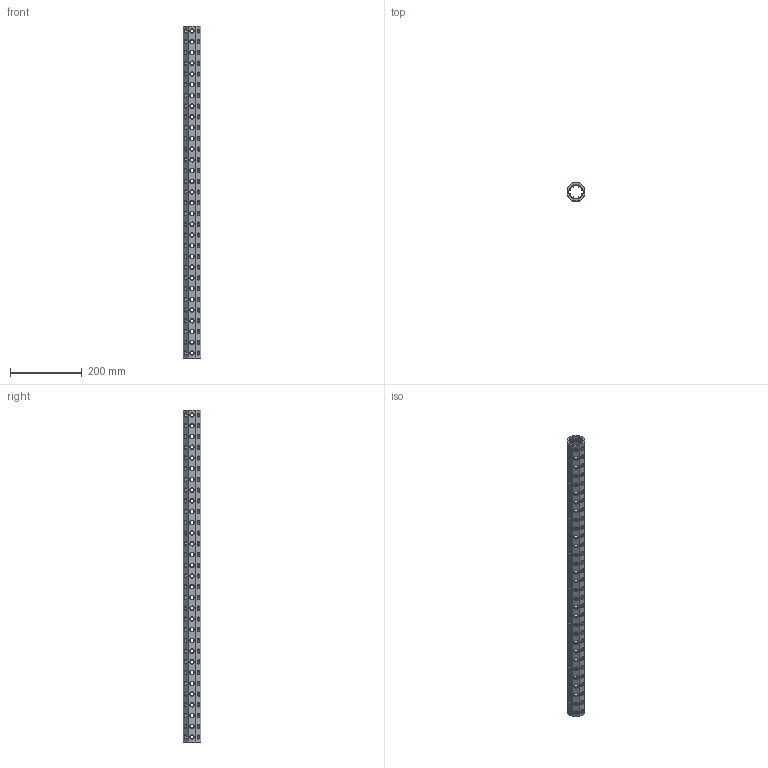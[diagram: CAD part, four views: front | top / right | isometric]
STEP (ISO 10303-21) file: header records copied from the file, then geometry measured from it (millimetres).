
FILE_DESCRIPTION(('CATIA V5 STEP Exchange'),'2;1');
FILE_NAME('U:\Room\唐宝山\EGT002\46-01-010260-01-EGT002-928.stp','2021-08-24T01:11:10+00:00',('none'),('none'),'CATIA Version 5 Release 21 GA (IN-10)','CATIA V5 STEP AP203','none');
FILE_SCHEMA(('CONFIG_CONTROL_DESIGN'));
Products named in the file (1): 46-01-010260-01-EGT002-928
Bounding box: 50 x 50 x 928 mm (x, y, z)
Volume: 661053.9 mm3; surface area: 319668.3 mm2
Topology: 1 solids, 1 shells, 1324 faces, 3656 edges, 2272 vertices
Faces by surface type: cone 744, cylinder 554, plane 26
Entity records: 57392 total; most frequent: CARTESIAN_POINT 25583, ORIENTED_EDGE 7312, DIRECTION 5010, EDGE_CURVE 3656, VERTEX_POINT 2272, AXIS2_PLACEMENT_3D 2255, EDGE_LOOP 1760, VECTOR 1432
